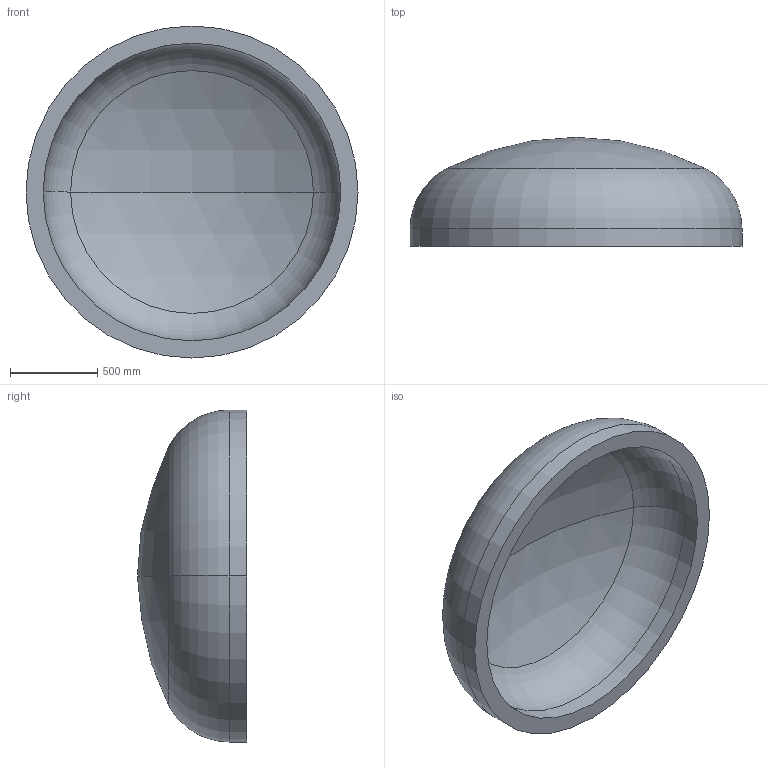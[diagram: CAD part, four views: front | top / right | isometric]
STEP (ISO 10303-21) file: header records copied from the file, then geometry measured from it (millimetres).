
FILE_DESCRIPTION (( 'STEP AP203' ), '1' );
FILE_NAME ('DIN 28013 Korbbogenform_-_Boden DIN 28013 - 1900 x 100 - I - s=98.step', '2016-07-01T13:24:57', ( '' ), ( '' ), 'SwSTEP 2.0', 'SolidWorks 2013', '' );
FILE_SCHEMA (( 'CONFIG_CONTROL_DESIGN' ));
Length unit declared in the file: millimetre
Products named in the file (1): DIN 28013 Korbbogenform_-_Boden DIN 28013 - 1900 x 100 - I - s=98
Bounding box: 1900 x 623.9 x 1900 mm (x, y, z)
Volume: 415003325.5 mm3; surface area: 9044360.6 mm2
Topology: 1 solids, 1 shells, 13 faces, 24 edges, 14 vertices
Faces by surface type: torus 4, cylinder 4, sphere 4, plane 1
Entity records: 407 total; most frequent: DIRECTION 72, CARTESIAN_POINT 52, ORIENTED_EDGE 48, AXIS2_PLACEMENT_3D 34, EDGE_CURVE 24, CIRCLE 20, VERTEX_POINT 14, EDGE_LOOP 14
